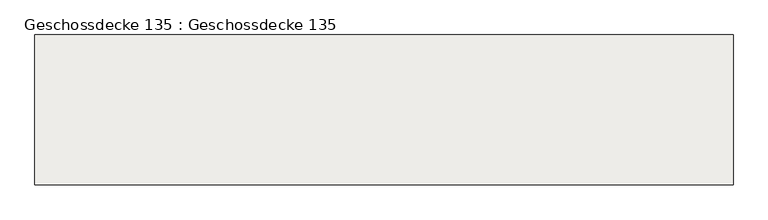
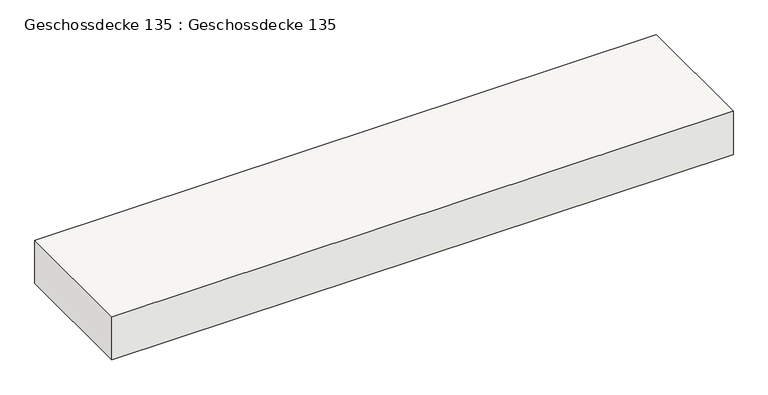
"""IFC4 building model written with IfcOpenShell, lengths in millimetres: slab geometry, Geschossdecke 135 : Geschossdecke 135."""

from ifc_helpers import new_model, si_unit, frame, origin, place, context, project, spatial, polyline, outline, extrude, source, transform, mapped, element, save


def geschossdecke_135_geschossdecke_135_40bcd5ce(model_context):
    return source(origin(), model_context, "Body", "SweptSolid", [
        extrude(outline(polyline([(9324.1639552, 5547.9894443), (9324.1639552, 6130.8165133), (12035.8855919, 6130.8165133), (12035.8855919, 5547.9894443), (9324.1639552, 5547.9894443)])), frame((0.0, 0.0, 2950.0), z_axis=(0.0, 0.0, 1.0), x_axis=(1.0, 0.0, 0.0)), (0.0, 0.0, 1.0), 200.0),
    ])


if __name__ == "__main__":
    model = new_model("IFC4")
    model_context = context("Model", 3, world=origin())
    ifc_project = project(units=[si_unit("LENGTHUNIT", "METRE", prefix="MILLI")], contexts=[model_context])
    site = spatial("IfcSite", under=ifc_project)
    building = spatial("IfcBuilding", under=site)
    placement = place(None, origin())
    geschossdecke_135_geschossdecke_135_shape = geschossdecke_135_geschossdecke_135_40bcd5ce(model_context)
    element("IfcSlab", 1, ObjectType="Geschossdecke 135 : Geschossdecke 135", at=placement, inside=building, context=model_context, shape_type="MappedRepresentation", body=[
        mapped(geschossdecke_135_geschossdecke_135_shape, transform((0.0, 0.0, 0.0), x_axis=(1.0, 0.0, 0.0), y_axis=(0.0, 1.0, 0.0), z_axis=(0.0, 0.0, 1.0))),
    ])
    save(model, "model.ifc")
